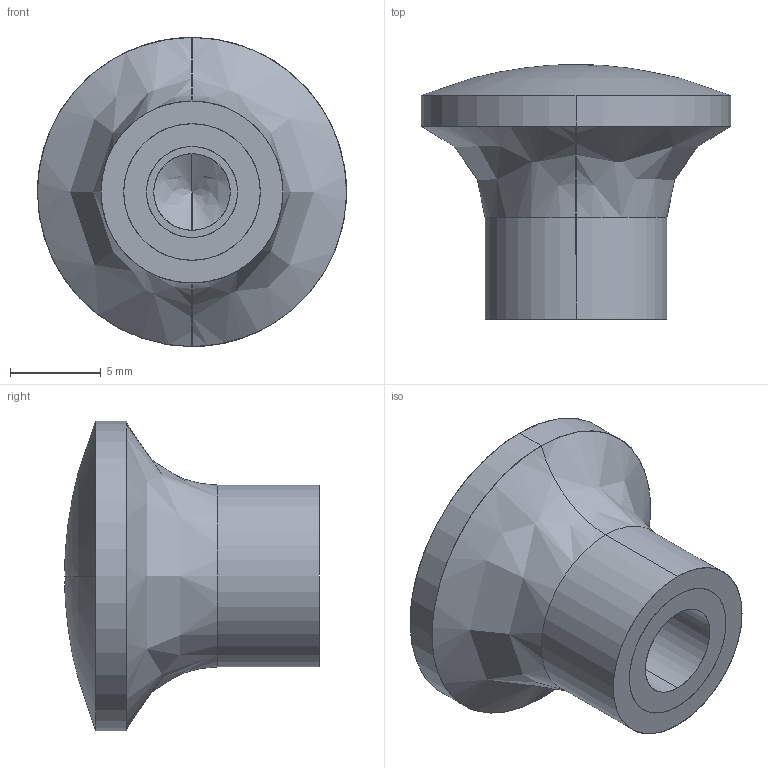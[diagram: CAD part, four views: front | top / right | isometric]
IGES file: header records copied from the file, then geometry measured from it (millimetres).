
Start section: SolidWorks IGES file using analytic representation for surfaces
Global section: file name: C:\Users\IanO\Desktop\Temp File\Process pending\73200_v2\73200_v2_20171103_IGES\73200.W0017.igs; native system: SolidWorks 2017; preprocessor: SolidWorks 2017; author: IanO; date: 171103.111708; units: millimetre
Bounding box: 17 x 14 x 17 mm (x, y, z)
Surface area: 1502.9 mm2 (no closed solid volume)
Topology: 0 solids, 0 shells, 37 faces, 572 edges, 565 vertices
Faces by surface type: revolution 28, bspline 9
